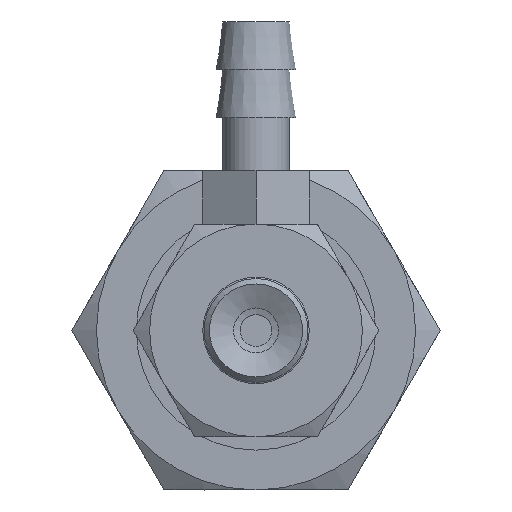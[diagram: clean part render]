
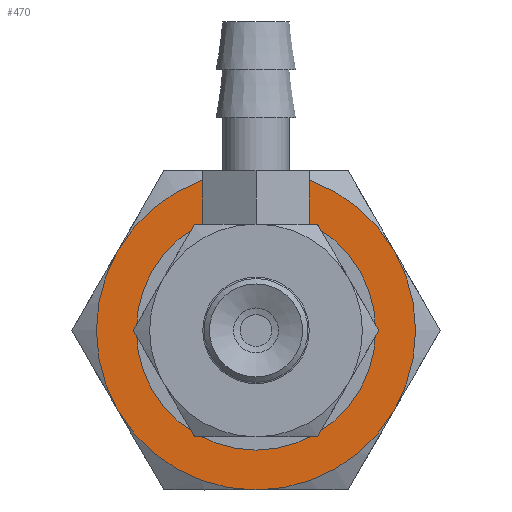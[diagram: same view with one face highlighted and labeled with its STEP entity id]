
A CAD part, front view. The second image highlights one B-rep face of the part: STEP entity #470.
In plain terms, the highlighted planar face has unit normal (0, -1, 0) as drawn and (-1, 0, 0) by its records, which use the part's own axes.
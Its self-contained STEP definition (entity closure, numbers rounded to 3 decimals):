
#470=ADVANCED_FACE('',(#623,#624),#625,.F.);
#623=FACE_BOUND('',#950,.T.);
#624=FACE_OUTER_BOUND('',#951,.T.);
#625=PLANE('',#952);
#950=EDGE_LOOP('',(#1380));
#951=EDGE_LOOP('',(#1381,#1382,#1383,#1384,#1385,#1386));
#952=AXIS2_PLACEMENT_3D('',#1387,#1388,#1389);
#1380=ORIENTED_EDGE('',*,*,#2184,.T.);
#1381=ORIENTED_EDGE('',*,*,#2185,.F.);
#1382=ORIENTED_EDGE('',*,*,#2186,.F.);
#1383=ORIENTED_EDGE('',*,*,#2187,.F.);
#1384=ORIENTED_EDGE('',*,*,#2188,.F.);
#1385=ORIENTED_EDGE('',*,*,#2189,.F.);
#1386=ORIENTED_EDGE('',*,*,#2182,.F.);
#1387=CARTESIAN_POINT('',(0.,0.0,0.0));
#1388=DIRECTION('',(1.0,0.0,0.0));
#1389=DIRECTION('',(0.0,1.0,0.0));
#2182=EDGE_CURVE('',#2445,#2448,#2449,.T.);
#2184=EDGE_CURVE('',#2451,#2451,#2452,.T.);
#2185=EDGE_CURVE('',#2436,#2445,#2453,.T.);
#2186=EDGE_CURVE('',#2454,#2436,#2455,.T.);
#2187=EDGE_CURVE('',#2456,#2454,#2457,.T.);
#2188=EDGE_CURVE('',#2458,#2456,#2459,.T.);
#2189=EDGE_CURVE('',#2448,#2458,#2460,.T.);
#2436=VERTEX_POINT('',#2886);
#2445=VERTEX_POINT('',#2936);
#2448=VERTEX_POINT('',#2959);
#2449=CIRCLE('',#2960,6.0);
#2451=VERTEX_POINT('',#2972);
#2452=CIRCLE('',#2973,4.0);
#2453=CIRCLE('',#2974,6.0);
#2454=VERTEX_POINT('',#2975);
#2455=CIRCLE('',#2976,6.0);
#2456=VERTEX_POINT('',#2977);
#2457=CIRCLE('',#2978,6.0);
#2458=VERTEX_POINT('',#2979);
#2459=CIRCLE('',#2980,6.0);
#2460=CIRCLE('',#2981,6.0);
#2886=CARTESIAN_POINT('',(0.,5.196,-3.0));
#2936=CARTESIAN_POINT('',(0.,5.196,3.0));
#2959=CARTESIAN_POINT('',(0.,0.0,6.0));
#2960=AXIS2_PLACEMENT_3D('',#3688,#3689,#3690);
#2972=CARTESIAN_POINT('',(0.,0.0,-4.0));
#2973=AXIS2_PLACEMENT_3D('',#3691,#3692,#3693);
#2974=AXIS2_PLACEMENT_3D('',#3694,#3695,#3696);
#2975=CARTESIAN_POINT('',(0.,0.0,-6.0));
#2976=AXIS2_PLACEMENT_3D('',#3697,#3698,#3699);
#2977=CARTESIAN_POINT('',(0.,-5.196,-3.0));
#2978=AXIS2_PLACEMENT_3D('',#3700,#3701,#3702);
#2979=CARTESIAN_POINT('',(0.,-5.196,3.0));
#2980=AXIS2_PLACEMENT_3D('',#3703,#3704,#3705);
#2981=AXIS2_PLACEMENT_3D('',#3706,#3707,#3708);
#3688=CARTESIAN_POINT('',(0.,0.0,0.0));
#3689=DIRECTION('',(1.0,0.0,0.0));
#3690=DIRECTION('',(0.0,0.0,-1.0));
#3691=CARTESIAN_POINT('',(0.,0.0,0.0));
#3692=DIRECTION('',(1.0,0.0,0.0));
#3693=DIRECTION('',(0.0,0.0,-1.0));
#3694=CARTESIAN_POINT('',(0.,0.0,0.0));
#3695=DIRECTION('',(1.0,0.0,0.0));
#3696=DIRECTION('',(0.0,0.0,-1.0));
#3697=CARTESIAN_POINT('',(0.,0.0,0.0));
#3698=DIRECTION('',(1.0,0.0,0.0));
#3699=DIRECTION('',(0.0,0.0,-1.0));
#3700=CARTESIAN_POINT('',(0.,0.0,0.0));
#3701=DIRECTION('',(1.0,0.0,0.0));
#3702=DIRECTION('',(0.0,0.0,-1.0));
#3703=CARTESIAN_POINT('',(0.,0.0,0.0));
#3704=DIRECTION('',(1.0,0.0,0.0));
#3705=DIRECTION('',(0.0,0.0,-1.0));
#3706=CARTESIAN_POINT('',(0.,0.0,0.0));
#3707=DIRECTION('',(1.0,0.0,0.0));
#3708=DIRECTION('',(0.0,0.0,-1.0));
